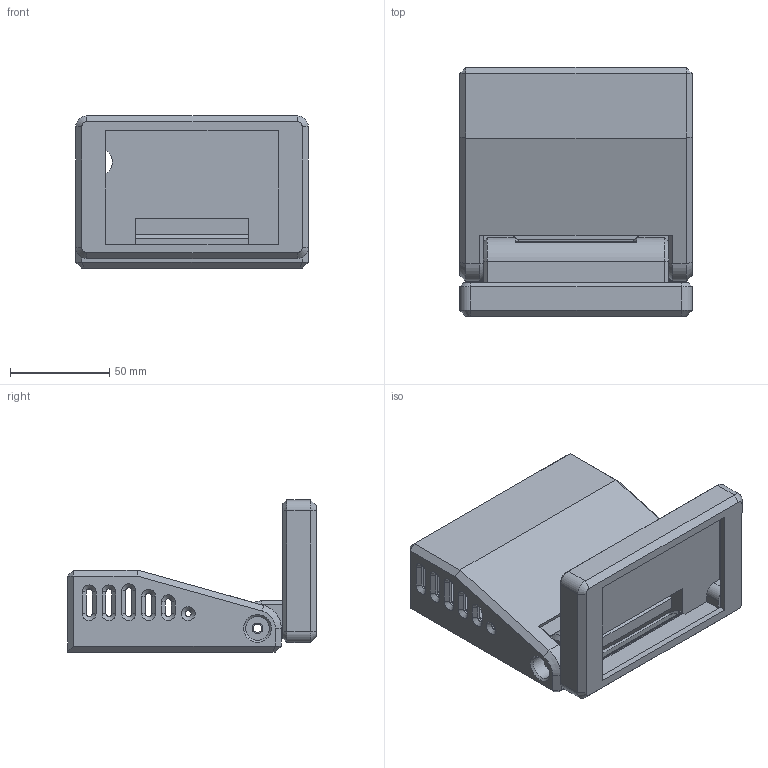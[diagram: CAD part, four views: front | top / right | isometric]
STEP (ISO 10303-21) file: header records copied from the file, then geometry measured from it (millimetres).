
FILE_DESCRIPTION(/* description */ ('FreeCAD Model','CAx-IF Rec.Pracs.---Representation and Presentation of Product Manufacturing Information (PMI)---4.0---2014-10-13'),/* implementation_level */ '2;1');
FILE_NAME(/* name */ 'Obudowa_wagi.step',/* time_stamp */ '2025-01-27T14:16:48+01:00',/* author */ (''),/* organization */ (''),/* preprocessor_version */ 'ST-DEVELOPER v20',/* originating_system */ 'Autodesk Translation Framework v13.20.0.188',/* authorisation */ '');
FILE_SCHEMA (('AP242_MANAGED_MODEL_BASED_3D_ENGINEERING_MIM_LF { 1 0 10303 442 1 1 4 }'));
Length unit declared in the file: millimetre
Products named in the file (5): MKS_DLC32_V2; OW_tyl; OW_front; MC_top; MC_bottmo
Assembly tree (4 placements, depth 2):
  MKS_DLC32_V2
    OW_tyl
    OW_front
    MC_top
    MC_bottmo
Bounding box: 117.35 x 125.65 x 76.85 mm (x, y, z)
Volume: 172452.2 mm3; surface area: 110461.9 mm2
Topology: 4 solids, 4 shells, 523 faces, 1277 edges, 778 vertices
Faces by surface type: plane 279, cylinder 133, cone 83, bspline 16, torus 12
Full cylindrical faces by diameter (mm): 2.4 x8, 2.5 x4, 3 x2, 3.5 x4, 4.2 x1, 5.4 x2, 6.2 x8, 12 x2, 14 x1
Entity records: 15946 total; most frequent: CARTESIAN_POINT 3254, DIRECTION 2647, ORIENTED_EDGE 2554, EDGE_CURVE 1277, AXIS2_PLACEMENT_3D 884, LINE 879, VECTOR 879, VERTEX_POINT 778
